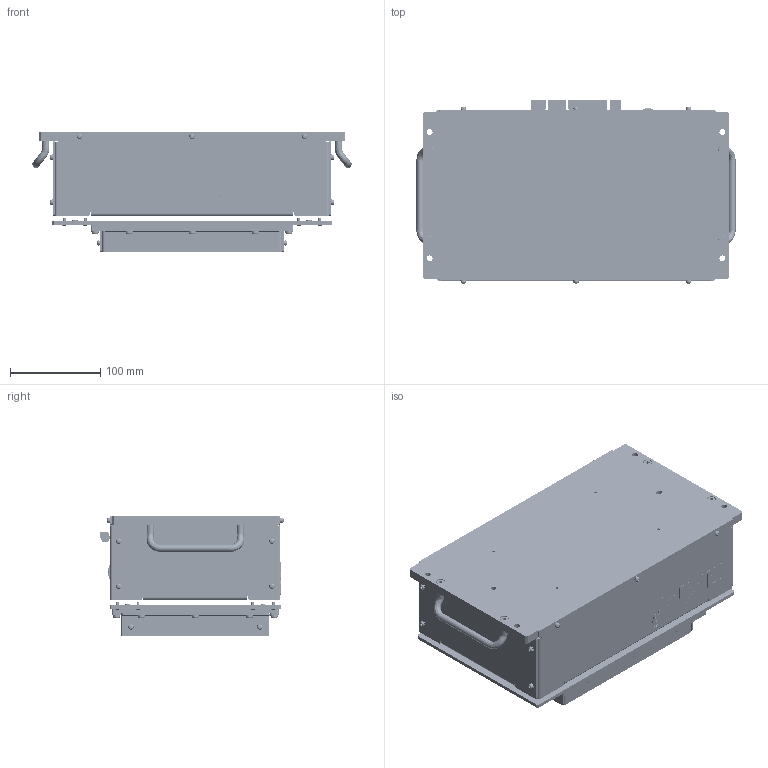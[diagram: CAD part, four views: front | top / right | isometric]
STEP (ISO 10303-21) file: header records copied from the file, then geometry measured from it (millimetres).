
FILE_DESCRIPTION (( 'STEP AP203' ), '1' );
FILE_NAME ('柔性振散盘,QFF-2016,200盘面.STEP', '2022-08-06T09:02:44', ( '' ), ( '' ), 'SwSTEP 2.0', 'SolidWorks 2017', '' );
FILE_SCHEMA (( 'CONFIG_CONTROL_DESIGN' ));
Products named in the file (1): 柔性振散盘,QFF-2016,200盘面
Bounding box: 354.3 x 203.28 x 133.2 mm (x, y, z)
Volume: 1217797.1 mm3; surface area: 610061.8 mm2
Topology: 147 solids, 147 shells, 6112 faces, 15112 edges, 9814 vertices
Faces by surface type: plane 3352, cylinder 1198, bspline 1055, cone 365, torus 138, sphere 4
Entity records: 212588 total; most frequent: CARTESIAN_POINT 72293, ORIENTED_EDGE 30184, DIRECTION 25814, EDGE_CURVE 15092, VERTEX_POINT 9814, VECTOR 9726, LINE 9726, AXIS2_PLACEMENT_3D 8044
